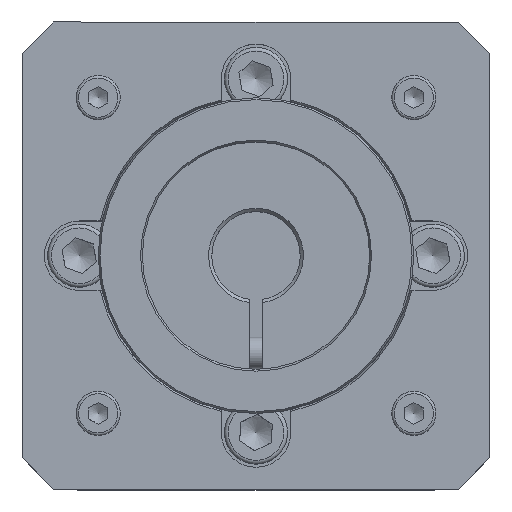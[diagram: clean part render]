
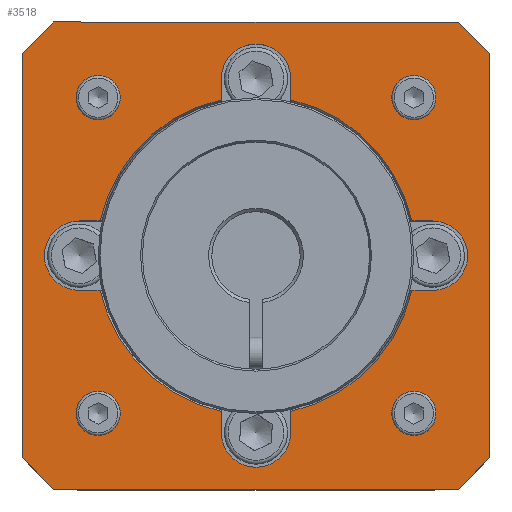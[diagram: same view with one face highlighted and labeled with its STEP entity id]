
A CAD part, top view. The second image highlights one B-rep face of the part: STEP entity #3518.
In plain terms, the highlighted planar face has unit normal (0, 0, 1).
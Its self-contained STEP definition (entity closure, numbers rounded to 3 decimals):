
#268=LINE($,#5978,#470);
#274=LINE($,#5991,#476);
#275=LINE($,#5993,#477);
#276=LINE($,#5995,#478);
#277=LINE($,#5997,#479);
#278=LINE($,#5999,#480);
#279=LINE($,#6001,#481);
#280=LINE($,#6003,#482);
#281=LINE($,#6004,#483);
#282=LINE($,#6006,#484);
#283=LINE($,#6010,#485);
#284=LINE($,#6014,#486);
#285=LINE($,#6018,#487);
#286=LINE($,#6022,#488);
#287=LINE($,#6026,#489);
#288=LINE($,#6030,#490);
#470=VECTOR($,#4736,3.317);
#476=VECTOR($,#4744,7.071);
#477=VECTOR($,#4745,64.);
#478=VECTOR($,#4746,7.071);
#479=VECTOR($,#4747,64.);
#480=VECTOR($,#4748,7.071);
#481=VECTOR($,#4749,64.);
#482=VECTOR($,#4750,7.071);
#483=VECTOR($,#4751,64.);
#484=VECTOR($,#4752,3.317);
#485=VECTOR($,#4755,3.317);
#486=VECTOR($,#4758,3.317);
#487=VECTOR($,#4761,3.317);
#488=VECTOR($,#4764,3.317);
#489=VECTOR($,#4767,3.317);
#490=VECTOR($,#4770,3.317);
#628=PLANE($,#3900);
#827=FACE_BOUND($,#1323,.T.);
#828=FACE_BOUND($,#1324,.T.);
#829=FACE_BOUND($,#1325,.T.);
#830=FACE_BOUND($,#1326,.T.);
#831=FACE_BOUND($,#1327,.T.);
#832=FACE_BOUND($,#1328,.T.);
#1323=EDGE_LOOP($,(#2955));
#1324=EDGE_LOOP($,(#2956));
#1325=EDGE_LOOP($,(#2957));
#1326=EDGE_LOOP($,(#2958));
#1327=EDGE_LOOP($,(#2959,#2960,#2961,#2962,#2963,#2964,#2965,#2966));
#1328=EDGE_LOOP($,(#2967,#2968,#2969,#2970,#2971,#2972,#2973,#2974,#2975,
#2976,#2977,#2978,#2979,#2980,#2981,#2982));
#1572=CIRCLE($,#3886,1.621);
#1574=CIRCLE($,#3889,1.621);
#1576=CIRCLE($,#3892,1.621);
#1578=CIRCLE($,#3895,1.621);
#1579=CIRCLE($,#3897,25.289);
#1581=CIRCLE($,#3901,5.5);
#1582=CIRCLE($,#3902,25.289);
#1583=CIRCLE($,#3903,5.5);
#1584=CIRCLE($,#3904,25.289);
#1585=CIRCLE($,#3905,5.5);
#1586=CIRCLE($,#3906,25.289);
#1587=CIRCLE($,#3907,5.5);
#1833=VERTEX_POINT($,#5946);
#1835=VERTEX_POINT($,#5951);
#1837=VERTEX_POINT($,#5956);
#1839=VERTEX_POINT($,#5961);
#1841=VERTEX_POINT($,#5965);
#1842=VERTEX_POINT($,#5969);
#1844=VERTEX_POINT($,#5977);
#1849=VERTEX_POINT($,#5989);
#1850=VERTEX_POINT($,#5990);
#1851=VERTEX_POINT($,#5992);
#1852=VERTEX_POINT($,#5994);
#1853=VERTEX_POINT($,#5996);
#1854=VERTEX_POINT($,#5998);
#1855=VERTEX_POINT($,#6000);
#1856=VERTEX_POINT($,#6002);
#1857=VERTEX_POINT($,#6005);
#1858=VERTEX_POINT($,#6007);
#1859=VERTEX_POINT($,#6009);
#1860=VERTEX_POINT($,#6011);
#1861=VERTEX_POINT($,#6013);
#1862=VERTEX_POINT($,#6015);
#1863=VERTEX_POINT($,#6017);
#1864=VERTEX_POINT($,#6019);
#1865=VERTEX_POINT($,#6021);
#1866=VERTEX_POINT($,#6023);
#1867=VERTEX_POINT($,#6025);
#1868=VERTEX_POINT($,#6027);
#1869=VERTEX_POINT($,#6029);
#2231=EDGE_CURVE($,#1833,#1833,#1572,.T.);
#2233=EDGE_CURVE($,#1835,#1835,#1574,.T.);
#2235=EDGE_CURVE($,#1837,#1837,#1576,.T.);
#2237=EDGE_CURVE($,#1839,#1839,#1578,.T.);
#2239=EDGE_CURVE($,#1841,#1842,#1579,.T.);
#2242=EDGE_CURVE($,#1844,#1842,#268,.T.);
#2248=EDGE_CURVE($,#1849,#1850,#274,.T.);
#2249=EDGE_CURVE($,#1851,#1849,#275,.T.);
#2250=EDGE_CURVE($,#1852,#1851,#276,.T.);
#2251=EDGE_CURVE($,#1853,#1852,#277,.T.);
#2252=EDGE_CURVE($,#1854,#1853,#278,.T.);
#2253=EDGE_CURVE($,#1855,#1854,#279,.T.);
#2254=EDGE_CURVE($,#1856,#1855,#280,.T.);
#2255=EDGE_CURVE($,#1850,#1856,#281,.T.);
#2256=EDGE_CURVE($,#1841,#1857,#282,.T.);
#2257=EDGE_CURVE($,#1857,#1858,#1581,.T.);
#2258=EDGE_CURVE($,#1858,#1859,#283,.T.);
#2259=EDGE_CURVE($,#1860,#1859,#1582,.T.);
#2260=EDGE_CURVE($,#1860,#1861,#284,.T.);
#2261=EDGE_CURVE($,#1861,#1862,#1583,.T.);
#2262=EDGE_CURVE($,#1862,#1863,#285,.T.);
#2263=EDGE_CURVE($,#1864,#1863,#1584,.T.);
#2264=EDGE_CURVE($,#1864,#1865,#286,.T.);
#2265=EDGE_CURVE($,#1865,#1866,#1585,.T.);
#2266=EDGE_CURVE($,#1866,#1867,#287,.T.);
#2267=EDGE_CURVE($,#1868,#1867,#1586,.T.);
#2268=EDGE_CURVE($,#1868,#1869,#288,.T.);
#2269=EDGE_CURVE($,#1869,#1844,#1587,.T.);
#2955=ORIENTED_EDGE($,*,*,#2231,.T.);
#2956=ORIENTED_EDGE($,*,*,#2233,.T.);
#2957=ORIENTED_EDGE($,*,*,#2235,.T.);
#2958=ORIENTED_EDGE($,*,*,#2237,.T.);
#2959=ORIENTED_EDGE($,*,*,#2248,.F.);
#2960=ORIENTED_EDGE($,*,*,#2249,.F.);
#2961=ORIENTED_EDGE($,*,*,#2250,.F.);
#2962=ORIENTED_EDGE($,*,*,#2251,.F.);
#2963=ORIENTED_EDGE($,*,*,#2252,.F.);
#2964=ORIENTED_EDGE($,*,*,#2253,.F.);
#2965=ORIENTED_EDGE($,*,*,#2254,.F.);
#2966=ORIENTED_EDGE($,*,*,#2255,.F.);
#2967=ORIENTED_EDGE($,*,*,#2239,.F.);
#2968=ORIENTED_EDGE($,*,*,#2256,.T.);
#2969=ORIENTED_EDGE($,*,*,#2257,.T.);
#2970=ORIENTED_EDGE($,*,*,#2258,.T.);
#2971=ORIENTED_EDGE($,*,*,#2259,.F.);
#2972=ORIENTED_EDGE($,*,*,#2260,.T.);
#2973=ORIENTED_EDGE($,*,*,#2261,.T.);
#2974=ORIENTED_EDGE($,*,*,#2262,.T.);
#2975=ORIENTED_EDGE($,*,*,#2263,.F.);
#2976=ORIENTED_EDGE($,*,*,#2264,.T.);
#2977=ORIENTED_EDGE($,*,*,#2265,.T.);
#2978=ORIENTED_EDGE($,*,*,#2266,.T.);
#2979=ORIENTED_EDGE($,*,*,#2267,.F.);
#2980=ORIENTED_EDGE($,*,*,#2268,.T.);
#2981=ORIENTED_EDGE($,*,*,#2269,.T.);
#2982=ORIENTED_EDGE($,*,*,#2242,.T.);
#3518=ADVANCED_FACE($,(#827,#828,#829,#830,#831,#832),#628,.T.);
#3886=AXIS2_PLACEMENT_3D($,#5947,#4708,#4709);
#3889=AXIS2_PLACEMENT_3D($,#5952,#4714,#4715);
#3892=AXIS2_PLACEMENT_3D($,#5957,#4720,#4721);
#3895=AXIS2_PLACEMENT_3D($,#5962,#4726,#4727);
#3897=AXIS2_PLACEMENT_3D($,#5970,#4730,#4731);
#3900=AXIS2_PLACEMENT_3D($,#5988,#4742,#4743);
#3901=AXIS2_PLACEMENT_3D($,#6008,#4753,#4754);
#3902=AXIS2_PLACEMENT_3D($,#6012,#4756,#4757);
#3903=AXIS2_PLACEMENT_3D($,#6016,#4759,#4760);
#3904=AXIS2_PLACEMENT_3D($,#6020,#4762,#4763);
#3905=AXIS2_PLACEMENT_3D($,#6024,#4765,#4766);
#3906=AXIS2_PLACEMENT_3D($,#6028,#4768,#4769);
#3907=AXIS2_PLACEMENT_3D($,#6031,#4771,#4772);
#4708=DIRECTION('center_axis',(0.,0.,-1.));
#4709=DIRECTION('ref_axis',(1.,0.,0.));
#4714=DIRECTION('center_axis',(0.,0.,-1.));
#4715=DIRECTION('ref_axis',(1.,0.,0.));
#4720=DIRECTION('center_axis',(0.,0.,-1.));
#4721=DIRECTION('ref_axis',(1.,0.,0.));
#4726=DIRECTION('center_axis',(0.,0.,-1.));
#4727=DIRECTION('ref_axis',(1.,0.,0.));
#4730=DIRECTION('center_axis',(0.,0.,1.));
#4731=DIRECTION('ref_axis',(0.,-1.,0.));
#4736=DIRECTION($,(0.,1.,0.));
#4742=DIRECTION('center_axis',(0.,0.,1.));
#4743=DIRECTION('ref_axis',(1.,0.,0.));
#4744=DIRECTION($,(0.707,-0.707,0.));
#4745=DIRECTION($,(1.,0.,0.));
#4746=DIRECTION($,(0.707,0.707,0.));
#4747=DIRECTION($,(0.,1.,0.));
#4748=DIRECTION($,(-0.707,0.707,0.));
#4749=DIRECTION($,(-1.,0.,0.));
#4750=DIRECTION($,(-0.707,-0.707,0.));
#4751=DIRECTION($,(0.,-1.,0.));
#4752=DIRECTION($,(-1.,0.,0.));
#4753=DIRECTION('center_axis',(0.,0.,-1.));
#4754=DIRECTION('ref_axis',(1.,0.,0.));
#4755=DIRECTION($,(1.,0.,0.));
#4756=DIRECTION('center_axis',(0.,0.,1.));
#4757=DIRECTION('ref_axis',(0.,1.,0.));
#4758=DIRECTION($,(0.,1.,0.));
#4759=DIRECTION('center_axis',(0.,0.,-1.));
#4760=DIRECTION('ref_axis',(1.,0.,0.));
#4761=DIRECTION($,(0.,-1.,0.));
#4762=DIRECTION('center_axis',(0.,0.,1.));
#4763=DIRECTION('ref_axis',(0.,1.,0.));
#4764=DIRECTION($,(1.,0.,0.));
#4765=DIRECTION('center_axis',(0.,0.,-1.));
#4766=DIRECTION('ref_axis',(1.,0.,0.));
#4767=DIRECTION($,(-1.,0.,0.));
#4768=DIRECTION('center_axis',(0.,0.,1.));
#4769=DIRECTION('ref_axis',(0.,-1.,0.));
#4770=DIRECTION($,(0.,-1.,0.));
#4771=DIRECTION('center_axis',(0.,0.,-1.));
#4772=DIRECTION('ref_axis',(1.,0.,0.));
#5946=CARTESIAN_POINT('',(-23.379,-25.,16.));
#5947=CARTESIAN_POINT('Origin',(-25.,-25.,16.));
#5951=CARTESIAN_POINT('',(26.621,-25.,16.));
#5952=CARTESIAN_POINT('Origin',(25.,-25.,16.));
#5956=CARTESIAN_POINT('',(26.621,25.,16.));
#5957=CARTESIAN_POINT('Origin',(25.,25.,16.));
#5961=CARTESIAN_POINT('',(-23.379,25.,16.));
#5962=CARTESIAN_POINT('Origin',(-25.,25.,16.));
#5965=CARTESIAN_POINT('',(-24.683,-5.5,16.));
#5969=CARTESIAN_POINT('',(-5.5,-24.683,16.));
#5970=CARTESIAN_POINT('Origin',(0.,0.,16.));
#5977=CARTESIAN_POINT('',(-5.5,-28.,16.));
#5978=CARTESIAN_POINT($,(-5.5,-2.75,16.));
#5988=CARTESIAN_POINT('Origin',(0.,0.,16.));
#5989=CARTESIAN_POINT('',(32.,37.,16.));
#5990=CARTESIAN_POINT('',(37.,32.,16.));
#5991=CARTESIAN_POINT($,(34.5,34.5,16.));
#5992=CARTESIAN_POINT('',(-32.,37.,16.));
#5993=CARTESIAN_POINT($,(-37.,37.,16.));
#5994=CARTESIAN_POINT('',(-37.,32.,16.));
#5995=CARTESIAN_POINT($,(-34.5,34.5,16.));
#5996=CARTESIAN_POINT('',(-37.,-32.,16.));
#5997=CARTESIAN_POINT($,(-37.,-37.,16.));
#5998=CARTESIAN_POINT('',(-32.,-37.,16.));
#5999=CARTESIAN_POINT($,(-34.5,-34.5,16.));
#6000=CARTESIAN_POINT('',(32.,-37.,16.));
#6001=CARTESIAN_POINT($,(37.,-37.,16.));
#6002=CARTESIAN_POINT('',(37.,-32.,16.));
#6003=CARTESIAN_POINT($,(34.5,-34.5,16.));
#6004=CARTESIAN_POINT($,(37.,37.,16.));
#6005=CARTESIAN_POINT('',(-28.,-5.5,16.));
#6006=CARTESIAN_POINT($,(-14.,-5.5,16.));
#6007=CARTESIAN_POINT('',(-28.,5.5,16.));
#6008=CARTESIAN_POINT('Origin',(-28.,0.,16.));
#6009=CARTESIAN_POINT('',(-24.683,5.5,16.));
#6010=CARTESIAN_POINT($,(-2.75,5.5,16.));
#6011=CARTESIAN_POINT('',(-5.5,24.683,16.));
#6012=CARTESIAN_POINT('Origin',(0.,0.,16.));
#6013=CARTESIAN_POINT('',(-5.5,28.,16.));
#6014=CARTESIAN_POINT($,(-5.5,14.,16.));
#6015=CARTESIAN_POINT('',(5.5,28.,16.));
#6016=CARTESIAN_POINT('Origin',(0.,28.,16.));
#6017=CARTESIAN_POINT('',(5.5,24.683,16.));
#6018=CARTESIAN_POINT($,(5.5,2.75,16.));
#6019=CARTESIAN_POINT('',(24.683,5.5,16.));
#6020=CARTESIAN_POINT('Origin',(0.,0.,16.));
#6021=CARTESIAN_POINT('',(28.,5.5,16.));
#6022=CARTESIAN_POINT($,(14.,5.5,16.));
#6023=CARTESIAN_POINT('',(28.,-5.5,16.));
#6024=CARTESIAN_POINT('Origin',(28.,0.,16.));
#6025=CARTESIAN_POINT('',(24.683,-5.5,16.));
#6026=CARTESIAN_POINT($,(2.75,-5.5,16.));
#6027=CARTESIAN_POINT('',(5.5,-24.683,16.));
#6028=CARTESIAN_POINT('Origin',(0.,0.,16.));
#6029=CARTESIAN_POINT('',(5.5,-28.,16.));
#6030=CARTESIAN_POINT($,(5.5,-14.,16.));
#6031=CARTESIAN_POINT('Origin',(0.,-28.,16.));
